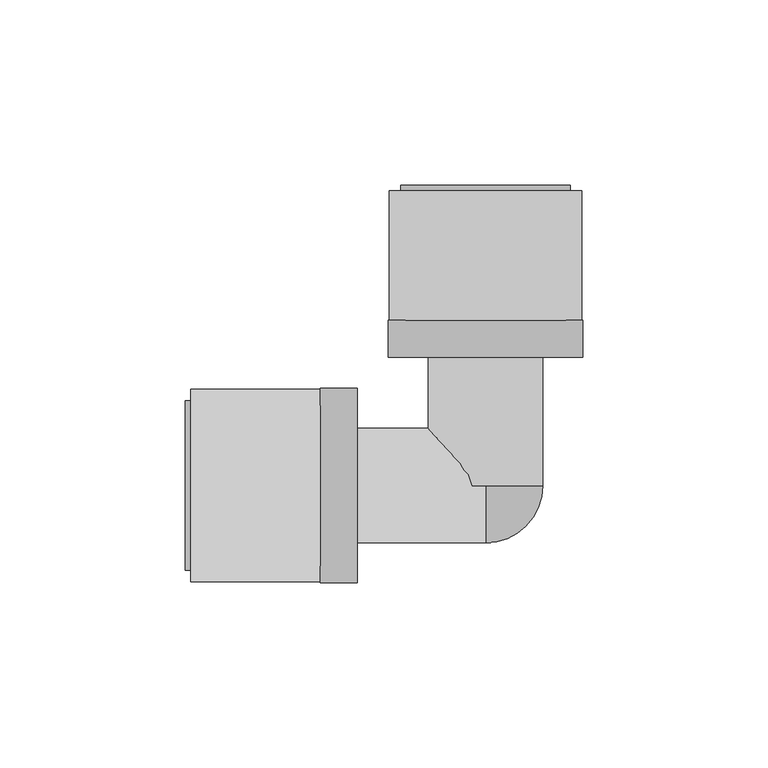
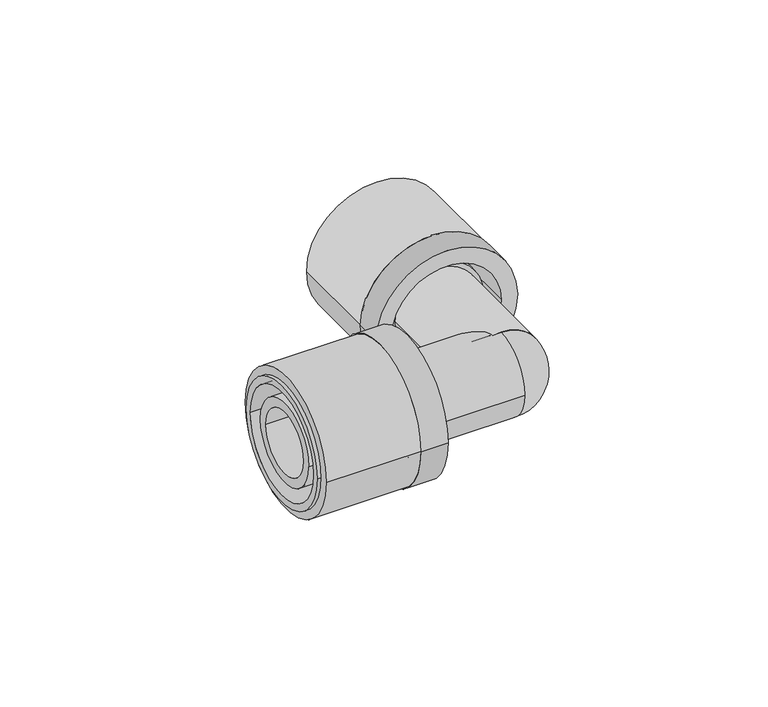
"""IFC4 building model written with IfcOpenShell, lengths in millimetres: pipe fitting geometry, FASTLOC_Corner LX : FSL C LX CZ."""

from ifc_helpers import new_model, si_unit, point, frame, origin, origin_2d, place, context, project, spatial, polyline, circle_curve, ellipse_curve, trimmed, segment, composite_curve, outline, extrude, source, transform, mapped, element, save
from ifc_brep_helpers import plane_surface, cylinder_surface, revolved_surface, advanced_brep


def pipe_fitting_f2230aa0(model_context):
    return source(origin(), model_context, "Body", "SolidModel", [
        extrude(outline(composite_curve([segment(trimmed(circle_curve(origin_2d(), 26.0), [point((0.0, 26.0))], [point((0.0, -26.0))], False, "CARTESIAN"), True, "CONTINUOUS"), segment(trimmed(circle_curve(origin_2d(), 26.0), [point((0.0, -26.0))], [point((0.0, 26.0))], False, "CARTESIAN"), True, "CONTINUOUS")], self_intersect=False), holes=[composite_curve([segment(trimmed(circle_curve(origin_2d(), 21.25), [point((0.0, 21.25))], [point((0.0, -21.25))], True, "CARTESIAN"), True, "CONTINUOUS"), segment(trimmed(circle_curve(origin_2d(), 21.25), [point((0.0, -21.25))], [point((0.0, 21.25))], True, "CARTESIAN"), True, "CONTINUOUS")], self_intersect=False)]), frame((0.0, 44.7, 0.0), z_axis=(0.0, 1.0, 0.0), x_axis=(0.0, 0.0, 1.0)), (0.0, 0.0, 1.0), 35.0),
        advanced_brep(
        [(-26.3, 44.7, 0.0), (26.3, 44.7, 0.0), (26.3, 34.7, 0.0), (-26.3, 34.7, 0.0), (-22.9, 81.2, 0.0), (22.9, 81.2, 0.0), (22.9, 44.7, 0.0), (-22.9, 44.7, 0.0), (-20.2, 34.7, 0.0), (20.2, 34.7, 0.0), (20.2, 81.2, 0.0), (-20.2, 81.2, 0.0)],
        [
            (0, 1, circle_curve(frame((0.0, 44.7, 0.0), z_axis=(0.0, -1.0, 0.0), x_axis=(1.0, 0.0, 0.0)), 26.3)),
            (1, 2),
            (2, 3, circle_curve(frame((0.0, 34.7, 0.0), z_axis=(0.0, 1.0, 0.0), x_axis=(1.0, 0.0, 0.0)), 26.3)),
            (3, 0),
            (4, 5, circle_curve(frame((0.0, 81.2, 0.0), z_axis=(0.0, -1.0, 0.0), x_axis=(1.0, 0.0, 0.0)), 22.9)),
            (5, 6),
            (6, 7, circle_curve(frame((0.0, 44.7, 0.0), z_axis=(0.0, 1.0, 0.0), x_axis=(1.0, 0.0, 0.0)), 22.9)),
            (7, 4),
            (8, 9, circle_curve(frame((0.0, 34.7, 0.0), z_axis=(0.0, -1.0, 0.0), x_axis=(1.0, 0.0, 0.0)), 20.2)),
            (9, 10),
            (10, 11, circle_curve(frame((0.0, 81.2, 0.0), z_axis=(0.0, 1.0, 0.0), x_axis=(1.0, 0.0, 0.0)), 20.2)),
            (11, 8),
            (1, 0, circle_curve(frame((0.0, 44.7, 0.0), z_axis=(0.0, -1.0, 0.0), x_axis=(-1.0, 0.0, 0.0)), 26.3)),
            (3, 2, circle_curve(frame((0.0, 34.7, 0.0), z_axis=(0.0, 1.0, 0.0), x_axis=(-1.0, 0.0, 0.0)), 26.3)),
            (6, 7, circle_curve(frame((0.0, 44.7, 0.0), z_axis=(0.0, -1.0, 0.0), x_axis=(-1.0, 0.0, 0.0)), 22.9)),
            (5, 4, circle_curve(frame((0.0, 81.2, 0.0), z_axis=(0.0, -1.0, 0.0), x_axis=(-1.0, 0.0, 0.0)), 22.9)),
            (10, 11, circle_curve(frame((0.0, 81.2, 0.0), z_axis=(0.0, -1.0, 0.0), x_axis=(-1.0, 0.0, 0.0)), 20.2)),
            (9, 8, circle_curve(frame((0.0, 34.7, 0.0), z_axis=(0.0, -1.0, 0.0), x_axis=(-1.0, 0.0, 0.0)), 20.2)),
        ],
        [
            cylinder_surface(frame((0.0, 34.7, 0.0), z_axis=(0.0, 1.0, 0.0), x_axis=(1.0, 0.0, 0.0)), 26.3),
            cylinder_surface(frame((0.0, 34.7, 0.0), z_axis=(0.0, 1.0, 0.0), x_axis=(1.0, 0.0, 0.0)), 22.9),
            revolved_surface(polyline([(20.2, 81.2, 0.0), (20.2, 34.7, 0.0)]), (0.0, 34.7, 0.0), (0.0, 1.0, 0.0)),
            cylinder_surface(frame((0.0, 34.7, 0.0), z_axis=(0.0, 1.0, 0.0), x_axis=(-1.0, 0.0, 0.0)), 26.3),
            plane_surface(frame((0.0, 44.7, 0.0), z_axis=(0.0, 1.0, 0.0), x_axis=(-1.0, 0.0, 0.0))),
            cylinder_surface(frame((0.0, 34.7, 0.0), z_axis=(0.0, 1.0, 0.0), x_axis=(-1.0, 0.0, 0.0)), 22.9),
            plane_surface(frame((0.0, 81.2, 0.0), z_axis=(0.0, 1.0, 0.0), x_axis=(-1.0, 0.0, 0.0))),
            revolved_surface(polyline([(-20.2, 81.2, 0.0), (-20.2, 34.7, 0.0)]), (0.0, 34.7, 0.0), (0.0, 1.0, 0.0)),
            plane_surface(frame((0.0, 34.7, 0.0), z_axis=(0.0, -1.0, 0.0), x_axis=(-1.0, 0.0, 0.0))),
        ],
        [
            (0, [[1, 2, 3, 4]]),
            (1, [[5, 6, 7, 8]]),
            (2, [[9, 10, 11, 12]]),
            (3, [[13, -4, 14, -2]]),
            (4, [[-13, -1], [15, -7]]),
            (5, [[16, -8, -15, -6]]),
            (6, [[-16, -5], [17, -11]]),
            (7, [[18, -12, -17, -10]]),
            (8, [[-14, -3], [-18, -9]]),
        ],
    ),
        extrude(outline(composite_curve([segment(trimmed(circle_curve(origin_2d(), 26.0), [point((26.0, 0.0))], [point((-26.0, 0.0))], False, "CARTESIAN"), True, "CONTINUOUS"), segment(trimmed(circle_curve(origin_2d(), 26.0), [point((-26.0, 0.0))], [point((26.0, 0.0))], False, "CARTESIAN"), True, "CONTINUOUS")], self_intersect=False), holes=[composite_curve([segment(trimmed(circle_curve(origin_2d(), 21.25), [point((21.25, 0.0))], [point((-21.25, 0.0))], True, "CARTESIAN"), True, "CONTINUOUS"), segment(trimmed(circle_curve(origin_2d(), 21.25), [point((-21.25, 0.0))], [point((21.25, 0.0))], True, "CARTESIAN"), True, "CONTINUOUS")], self_intersect=False)]), frame((-79.7, 0.0, 0.0), z_axis=(1.0, 0.0, 0.0), x_axis=(0.0, 1.0, 0.0)), (0.0, 0.0, 1.0), 35.0),
        advanced_brep(
        [(-44.7, -26.3, 0.0), (-44.7, 26.3, 0.0), (-34.7, 26.3, 0.0), (-34.7, -26.3, 0.0), (-81.2, -22.9, 0.0), (-81.2, 22.9, 0.0), (-44.7, 22.9, 0.0), (-44.7, -22.9, 0.0), (-34.7, -20.2, 0.0), (-34.7, 20.2, 0.0), (-81.2, 20.2, 0.0), (-81.2, -20.2, 0.0)],
        [
            (0, 1, circle_curve(frame((-44.7, 0.0, 0.0), z_axis=(1.0, 0.0, 0.0), x_axis=(0.0, 1.0, 0.0)), 26.3)),
            (1, 2),
            (2, 3, circle_curve(frame((-34.7, 0.0, 0.0), z_axis=(-1.0, 0.0, 0.0), x_axis=(0.0, 1.0, 0.0)), 26.3)),
            (3, 0),
            (4, 5, circle_curve(frame((-81.2, 0.0, 0.0), z_axis=(1.0, 0.0, 0.0), x_axis=(0.0, 1.0, 0.0)), 22.9)),
            (5, 6),
            (6, 7, circle_curve(frame((-44.7, 0.0, 0.0), z_axis=(-1.0, 0.0, 0.0), x_axis=(0.0, 1.0, 0.0)), 22.9)),
            (7, 4),
            (8, 9, circle_curve(frame((-34.7, 0.0, 0.0), z_axis=(1.0, 0.0, 0.0), x_axis=(0.0, 1.0, 0.0)), 20.2)),
            (9, 10),
            (10, 11, circle_curve(frame((-81.2, 0.0, 0.0), z_axis=(-1.0, 0.0, 0.0), x_axis=(0.0, 1.0, 0.0)), 20.2)),
            (11, 8),
            (1, 0, circle_curve(frame((-44.7, 0.0, 0.0), z_axis=(1.0, 0.0, 0.0), x_axis=(0.0, -1.0, 0.0)), 26.3)),
            (3, 2, circle_curve(frame((-34.7, 0.0, 0.0), z_axis=(-1.0, 0.0, 0.0), x_axis=(0.0, -1.0, 0.0)), 26.3)),
            (6, 7, circle_curve(frame((-44.7, 0.0, 0.0), z_axis=(1.0, 0.0, 0.0), x_axis=(0.0, -1.0, 0.0)), 22.9)),
            (5, 4, circle_curve(frame((-81.2, 0.0, 0.0), z_axis=(1.0, 0.0, 0.0), x_axis=(0.0, -1.0, 0.0)), 22.9)),
            (10, 11, circle_curve(frame((-81.2, 0.0, 0.0), z_axis=(1.0, 0.0, 0.0), x_axis=(0.0, -1.0, 0.0)), 20.2)),
            (9, 8, circle_curve(frame((-34.7, 0.0, 0.0), z_axis=(1.0, 0.0, 0.0), x_axis=(0.0, -1.0, 0.0)), 20.2)),
        ],
        [
            cylinder_surface(frame((-34.7, 0.0, 0.0), z_axis=(-1.0, 0.0, 0.0), x_axis=(0.0, 1.0, 0.0)), 26.3),
            cylinder_surface(frame((-34.7, 0.0, 0.0), z_axis=(-1.0, 0.0, 0.0), x_axis=(0.0, 1.0, 0.0)), 22.9),
            revolved_surface(polyline([(-81.2, 20.2, 0.0), (-34.7, 20.2, 0.0)]), (-34.7, 0.0, 0.0), (-1.0, 0.0, 0.0)),
            cylinder_surface(frame((-34.7, 0.0, 0.0), z_axis=(-1.0, 0.0, 0.0), x_axis=(0.0, -1.0, 0.0)), 26.3),
            plane_surface(frame((-44.7, 0.0, 0.0), z_axis=(-1.0, 0.0, 0.0), x_axis=(0.0, -1.0, 0.0))),
            cylinder_surface(frame((-34.7, 0.0, 0.0), z_axis=(-1.0, 0.0, 0.0), x_axis=(0.0, -1.0, 0.0)), 22.9),
            plane_surface(frame((-81.2, 0.0, 0.0), z_axis=(-1.0, 0.0, 0.0), x_axis=(0.0, -1.0, 0.0))),
            revolved_surface(polyline([(-81.2, -20.2, 0.0), (-34.7, -20.2, 0.0)]), (-34.7, 0.0, 0.0), (-1.0, 0.0, 0.0)),
            plane_surface(frame((-34.7, 0.0, 0.0), z_axis=(1.0, 0.0, 0.0), x_axis=(0.0, -1.0, 0.0))),
        ],
        [
            (0, [[1, 2, 3, 4]]),
            (1, [[5, 6, 7, 8]]),
            (2, [[9, 10, 11, 12]]),
            (3, [[13, -4, 14, -2]]),
            (4, [[-13, -1], [15, -7]]),
            (5, [[16, -8, -15, -6]]),
            (6, [[-16, -5], [17, -11]]),
            (7, [[18, -12, -17, -10]]),
            (8, [[-14, -3], [-18, -9]]),
        ],
    ),
        advanced_brep(
        [(11.95, 80.2, 0.0), (-11.95, 80.2, 0.0), (-11.95, 0.0, 0.0), (11.95, 0.0, 0.0), (15.5, 44.7, 0.0), (-15.5, 44.7, 0.0), (-15.5, 80.2, 0.0), (15.5, 80.2, 0.0), (17.2, 41.0, 0.0), (-17.2, 41.0, 0.0), (-17.2, 44.7, 0.0), (17.2, 44.7, 0.0), (15.5, 0.0, 0.0), (-15.5, 0.0, 0.0), (-15.5, 41.0, 0.0), (15.5, 41.0, 0.0)],
        [
            (0, 1, circle_curve(frame((0.0, 80.2, 0.0), z_axis=(0.0, 1.0, 0.0), x_axis=(-1.0, 0.0, 0.0)), 11.95)),
            (1, 2),
            (2, 3, circle_curve(frame((0.0, 0.0, 0.0), z_axis=(0.0, -1.0, 0.0), x_axis=(-1.0, 0.0, 0.0)), 11.95)),
            (3, 0),
            (4, 5, circle_curve(frame((0.0, 44.7, 0.0), z_axis=(0.0, 1.0, 0.0), x_axis=(-1.0, 0.0, 0.0)), 15.5)),
            (5, 6),
            (6, 7, circle_curve(frame((0.0, 80.2, 0.0), z_axis=(0.0, -1.0, 0.0), x_axis=(-1.0, 0.0, 0.0)), 15.5)),
            (7, 4),
            (8, 9, circle_curve(frame((0.0, 41.0, 0.0), z_axis=(0.0, 1.0, 0.0), x_axis=(-1.0, 0.0, 0.0)), 17.2)),
            (9, 10),
            (10, 11, circle_curve(frame((0.0, 44.7, 0.0), z_axis=(0.0, -1.0, 0.0), x_axis=(-1.0, 0.0, 0.0)), 17.2)),
            (11, 8),
            (12, 13, circle_curve(frame((0.0, 0.0, 0.0), z_axis=(0.0, 1.0, 0.0), x_axis=(-1.0, 0.0, 0.0)), 15.5)),
            (13, 14),
            (14, 15, circle_curve(frame((0.0, 41.0, 0.0), z_axis=(0.0, -1.0, 0.0), x_axis=(-1.0, 0.0, 0.0)), 15.5)),
            (15, 12),
            (1, 0, circle_curve(frame((0.0, 80.2, 0.0), z_axis=(0.0, 1.0, 0.0), x_axis=(1.0, 0.0, 0.0)), 11.95)),
            (3, 2, circle_curve(frame((0.0, 0.0, 0.0), z_axis=(0.0, -1.0, 0.0), x_axis=(1.0, 0.0, 0.0)), 11.95)),
            (6, 7, circle_curve(frame((0.0, 80.2, 0.0), z_axis=(0.0, 1.0, 0.0), x_axis=(1.0, 0.0, 0.0)), 15.5)),
            (5, 4, circle_curve(frame((0.0, 44.7, 0.0), z_axis=(0.0, 1.0, 0.0), x_axis=(1.0, 0.0, 0.0)), 15.5)),
            (10, 11, circle_curve(frame((0.0, 44.7, 0.0), z_axis=(0.0, 1.0, 0.0), x_axis=(1.0, 0.0, 0.0)), 17.2)),
            (9, 8, circle_curve(frame((0.0, 41.0, 0.0), z_axis=(0.0, 1.0, 0.0), x_axis=(1.0, 0.0, 0.0)), 17.2)),
            (14, 15, circle_curve(frame((0.0, 41.0, 0.0), z_axis=(0.0, 1.0, 0.0), x_axis=(1.0, 0.0, 0.0)), 15.5)),
            (13, 12, circle_curve(frame((0.0, 0.0, 0.0), z_axis=(0.0, 1.0, 0.0), x_axis=(1.0, 0.0, 0.0)), 15.5)),
        ],
        [
            revolved_surface(polyline([(-11.95, 0.0, 0.0), (-11.95, 80.2, 0.0)]), (0.0, 0.0, 0.0), (0.0, -1.0, 0.0)),
            cylinder_surface(frame((0.0, 0.0, 0.0), z_axis=(0.0, -1.0, 0.0), x_axis=(-1.0, 0.0, 0.0)), 15.5),
            cylinder_surface(frame((0.0, 0.0, 0.0), z_axis=(0.0, -1.0, 0.0), x_axis=(-1.0, 0.0, 0.0)), 17.2),
            revolved_surface(polyline([(11.95, 0.0, 0.0), (11.95, 80.2, 0.0)]), (0.0, 0.0, 0.0), (0.0, -1.0, 0.0)),
            plane_surface(frame((0.0, 80.2, 0.0), z_axis=(0.0, 1.0, 0.0), x_axis=(1.0, 0.0, 0.0))),
            cylinder_surface(frame((0.0, 0.0, 0.0), z_axis=(0.0, -1.0, 0.0), x_axis=(1.0, 0.0, 0.0)), 15.5),
            plane_surface(frame((0.0, 44.7, 0.0), z_axis=(0.0, 1.0, 0.0), x_axis=(1.0, 0.0, 0.0))),
            cylinder_surface(frame((0.0, 0.0, 0.0), z_axis=(0.0, -1.0, 0.0), x_axis=(1.0, 0.0, 0.0)), 17.2),
            plane_surface(frame((0.0, 41.0, 0.0), z_axis=(0.0, -1.0, 0.0), x_axis=(1.0, 0.0, 0.0))),
            plane_surface(frame((0.0, 0.0, 0.0), z_axis=(0.0, -1.0, 0.0), x_axis=(1.0, 0.0, 0.0))),
        ],
        [
            (0, [[1, 2, 3, 4]]),
            (1, [[5, 6, 7, 8]]),
            (2, [[9, 10, 11, 12]]),
            (1, [[13, 14, 15, 16]]),
            (3, [[17, -4, 18, -2]]),
            (4, [[19, -7], [-17, -1]]),
            (5, [[20, -8, -19, -6]]),
            (6, [[21, -11], [-20, -5]]),
            (7, [[22, -12, -21, -10]]),
            (8, [[-22, -9], [23, -15]]),
            (5, [[24, -16, -23, -14]]),
            (9, [[-24, -13], [-18, -3]]),
        ],
    ),
        advanced_brep(
        [(-80.2, 11.95, 0.0), (-80.2, -11.95, 0.0), (0.0, -11.95, 0.0), (0.0, 11.95, 0.0), (-44.7, 15.5, 0.0), (-44.7, -15.5, 0.0), (-80.2, -15.5, 0.0), (-80.2, 15.5, 0.0), (-41.0, 17.2, 0.0), (-41.0, -17.2, 0.0), (-44.7, -17.2, 0.0), (-44.7, 17.2, 0.0), (0.0, 15.5, 0.0), (0.0, -15.5, 0.0), (-41.0, -15.5, 0.0), (-41.0, 15.5, 0.0)],
        [
            (0, 1, circle_curve(frame((-80.2, 0.0, 0.0), z_axis=(-1.0, 0.0, 0.0), x_axis=(0.0, -1.0, 0.0)), 11.95)),
            (1, 2),
            (2, 3, circle_curve(frame((0.0, 0.0, 0.0), z_axis=(1.0, 0.0, 0.0), x_axis=(0.0, -1.0, 0.0)), 11.95)),
            (3, 0),
            (4, 5, circle_curve(frame((-44.7, 0.0, 0.0), z_axis=(-1.0, 0.0, 0.0), x_axis=(0.0, -1.0, 0.0)), 15.5)),
            (5, 6),
            (6, 7, circle_curve(frame((-80.2, 0.0, 0.0), z_axis=(1.0, 0.0, 0.0), x_axis=(0.0, -1.0, 0.0)), 15.5)),
            (7, 4),
            (8, 9, circle_curve(frame((-41.0, 0.0, 0.0), z_axis=(-1.0, 0.0, 0.0), x_axis=(0.0, -1.0, 0.0)), 17.2)),
            (9, 10),
            (10, 11, circle_curve(frame((-44.7, 0.0, 0.0), z_axis=(1.0, 0.0, 0.0), x_axis=(0.0, -1.0, 0.0)), 17.2)),
            (11, 8),
            (12, 13, circle_curve(frame((0.0, 0.0, 0.0), z_axis=(-1.0, 0.0, 0.0), x_axis=(0.0, -1.0, 0.0)), 15.5)),
            (13, 14),
            (14, 15, circle_curve(frame((-41.0, 0.0, 0.0), z_axis=(1.0, 0.0, 0.0), x_axis=(0.0, -1.0, 0.0)), 15.5)),
            (15, 12),
            (1, 0, circle_curve(frame((-80.2, 0.0, 0.0), z_axis=(-1.0, 0.0, 0.0), x_axis=(0.0, 1.0, 0.0)), 11.95)),
            (3, 2, circle_curve(frame((0.0, 0.0, 0.0), z_axis=(1.0, 0.0, 0.0), x_axis=(0.0, 1.0, 0.0)), 11.95)),
            (6, 7, circle_curve(frame((-80.2, 0.0, 0.0), z_axis=(-1.0, 0.0, 0.0), x_axis=(0.0, 1.0, 0.0)), 15.5)),
            (5, 4, circle_curve(frame((-44.7, 0.0, 0.0), z_axis=(-1.0, 0.0, 0.0), x_axis=(0.0, 1.0, 0.0)), 15.5)),
            (10, 11, circle_curve(frame((-44.7, 0.0, 0.0), z_axis=(-1.0, 0.0, 0.0), x_axis=(0.0, 1.0, 0.0)), 17.2)),
            (9, 8, circle_curve(frame((-41.0, 0.0, 0.0), z_axis=(-1.0, 0.0, 0.0), x_axis=(0.0, 1.0, 0.0)), 17.2)),
            (14, 15, circle_curve(frame((-41.0, 0.0, 0.0), z_axis=(-1.0, 0.0, 0.0), x_axis=(0.0, 1.0, 0.0)), 15.5)),
            (13, 12, circle_curve(frame((0.0, 0.0, 0.0), z_axis=(-1.0, 0.0, 0.0), x_axis=(0.0, 1.0, 0.0)), 15.5)),
        ],
        [
            revolved_surface(polyline([(0.0, -11.95, 0.0), (-80.2, -11.95, 0.0)]), (0.0, 0.0, 0.0), (1.0, 0.0, 0.0)),
            cylinder_surface(frame((0.0, 0.0, 0.0), z_axis=(1.0, 0.0, 0.0), x_axis=(0.0, -1.0, 0.0)), 15.5),
            cylinder_surface(frame((0.0, 0.0, 0.0), z_axis=(1.0, 0.0, 0.0), x_axis=(0.0, -1.0, 0.0)), 17.2),
            revolved_surface(polyline([(0.0, 11.95, 0.0), (-80.2, 11.95, 0.0)]), (0.0, 0.0, 0.0), (1.0, 0.0, 0.0)),
            plane_surface(frame((-80.2, 0.0, 0.0), z_axis=(-1.0, 0.0, 0.0), x_axis=(0.0, 1.0, 0.0))),
            cylinder_surface(frame((0.0, 0.0, 0.0), z_axis=(1.0, 0.0, 0.0), x_axis=(0.0, 1.0, 0.0)), 15.5),
            plane_surface(frame((-44.7, 0.0, 0.0), z_axis=(-1.0, 0.0, 0.0), x_axis=(0.0, 1.0, 0.0))),
            cylinder_surface(frame((0.0, 0.0, 0.0), z_axis=(1.0, 0.0, 0.0), x_axis=(0.0, 1.0, 0.0)), 17.2),
            plane_surface(frame((-41.0, 0.0, 0.0), z_axis=(1.0, 0.0, 0.0), x_axis=(0.0, 1.0, 0.0))),
            plane_surface(frame((0.0, 0.0, 0.0), z_axis=(1.0, 0.0, 0.0), x_axis=(0.0, 1.0, 0.0))),
        ],
        [
            (0, [[1, 2, 3, 4]]),
            (1, [[5, 6, 7, 8]]),
            (2, [[9, 10, 11, 12]]),
            (1, [[13, 14, 15, 16]]),
            (3, [[17, -4, 18, -2]]),
            (4, [[19, -7], [-17, -1]]),
            (5, [[20, -8, -19, -6]]),
            (6, [[21, -11], [-20, -5]]),
            (7, [[22, -12, -21, -10]]),
            (8, [[-22, -9], [23, -15]]),
            (5, [[24, -16, -23, -14]]),
            (9, [[-24, -13], [-18, -3]]),
        ],
    ),
        advanced_brep(
        [(0.0, 0.0, 15.5), (0.0, 0.0, 0.0), (0.0, -15.5, 0.0), (0.0, 0.0, -15.5)],
        [
            (0, 1),
            (1, 2),
            (2, 0, circle_curve(frame((0.0, 0.0, 0.0), z_axis=(-1.0, 0.0, 0.0), x_axis=(0.0, 0.0, 1.0)), 15.5)),
            (3, 2, circle_curve(frame((0.0, 0.0, 0.0), z_axis=(-1.0, 0.0, 0.0), x_axis=(0.0, 0.0, -1.0)), 15.5)),
            (1, 3),
            (0, 3, circle_curve(frame((0.0, 0.0, 0.0), z_axis=(0.0, 1.0, 0.0), x_axis=(0.0, 0.0, 1.0)), 15.5)),
        ],
        [
            plane_surface(frame((0.0, 0.0, 0.0), z_axis=(-1.0, 0.0, 0.0), x_axis=(0.0, 0.0, 1.0))),
            plane_surface(frame((0.0, 0.0, 0.0), z_axis=(-1.0, 0.0, 0.0), x_axis=(0.0, 0.0, -1.0))),
            plane_surface(frame((0.0, 0.0, 0.0), z_axis=(0.0, 1.0, 0.0), x_axis=(0.0, 0.0, 1.0))),
            revolved_surface(trimmed(ellipse_curve(frame((0.0, 0.0, 0.0), z_axis=(-1.0, 0.0, 0.0), x_axis=(0.0, 0.0, 1.0)), 15.5, 15.5), [point((0.0, -15.5, 0.0))], [point((0.0, 0.0, 15.5))], True, "CARTESIAN"), (0.0, 0.0, 0.0), (0.0, 1.0, 0.0)),
        ],
        [
            (0, [[1, 2, 3]]),
            (1, [[4, -2, 5]]),
            (2, [[-1, 6, -5]]),
            (3, [[-6, -3, -4]]),
        ],
    ),
    ])


if __name__ == "__main__":
    model = new_model("IFC4")
    model_context = context("Model", 3, world=origin())
    ifc_project = project(units=[si_unit("LENGTHUNIT", "METRE", prefix="MILLI")], contexts=[model_context])
    site = spatial("IfcSite", under=ifc_project)
    building = spatial("IfcBuilding", under=site)
    placement = place(None, origin())
    pipe_fitting_shape = pipe_fitting_f2230aa0(model_context)
    element("IfcPipeFitting", 1, ObjectType="FASTLOC_Corner LX : FSL C LX CZ", at=placement, inside=building, context=model_context, shape_type="MappedRepresentation", body=[
        mapped(pipe_fitting_shape, transform((0.0, 0.0, 0.0), x_axis=(1.0, 0.0, 0.0), y_axis=(0.0, 1.0, 0.0), z_axis=(0.0, 0.0, 1.0))),
    ])
    save(model, "model.ifc")
